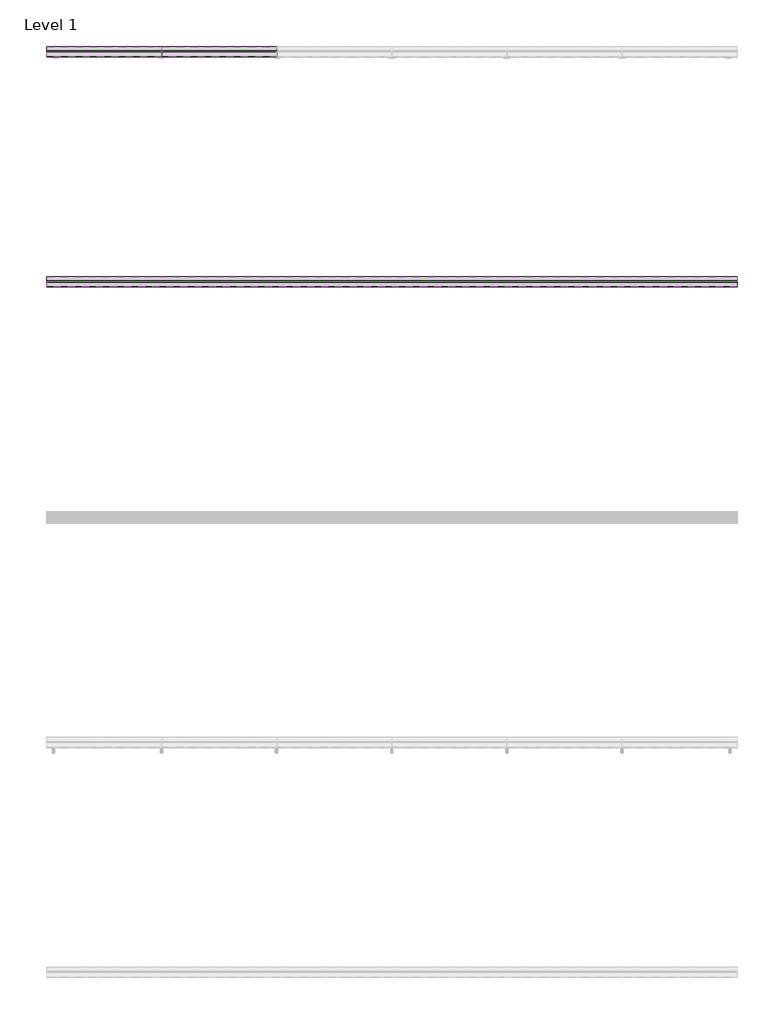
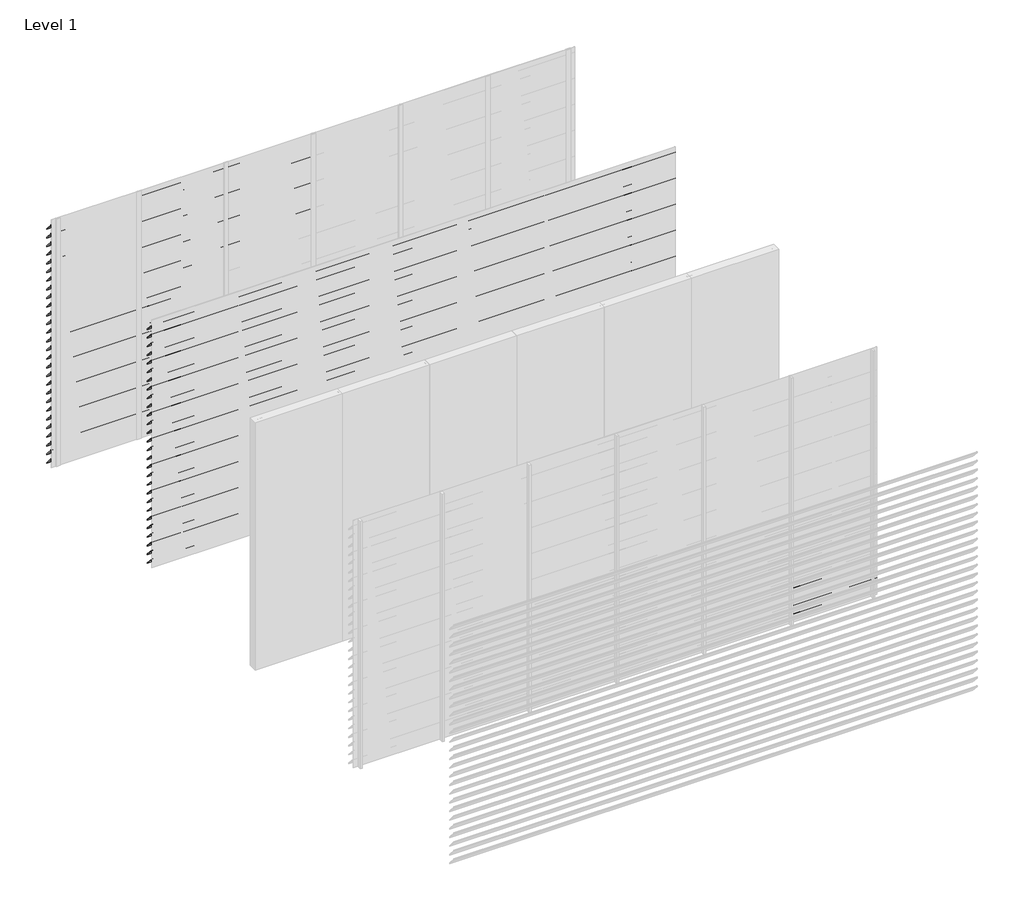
# One storey, part 8 of 9: 99 proxies.
"""IFC4 building model written with IfcOpenShell, lengths in millimetres."""

from ifc_helpers import new_model, si_unit, frame, origin, place, context, project, spatial, polyline, outline, extrude, element, save

model = new_model("IFC4")

# Units and contexts
model_context = context("Model", 3, world=origin())
ifc_project = project(units=[si_unit("LENGTHUNIT", "METRE", prefix="MILLI")], contexts=[model_context])

# Site, building, storey
site = spatial("IfcSite", under=ifc_project)
building = spatial("IfcBuilding", under=site)
storey = spatial("IfcBuildingStorey", under=building, Name="Level 1", Elevation=0.0)

# Proxies
placement = place(None, origin())
element("IfcBuildingElementProxy", 1, Name="Wall Sweeps", at=placement, inside=storey, context=model_context, shape_type="SweptSolid", body=[
    extrude(outline(polyline([(5.0, 2940.0), (5.0, 2935.6232888), (92.0, 2839.0), (92.0, 2829.0), (3.0, 2927.8445138), (3.0, 2940.0), (5.0, 2940.0)])), frame((0.0, 0.0, 0.0), z_axis=(1.0, 0.0, 0.0), x_axis=(0.0, 1.0, 0.0)), (0.0, 0.0, 1.0), 1000.0),
])
element("IfcBuildingElementProxy", 2, Name="Wall Sweeps", at=placement, inside=storey, context=model_context, shape_type="SweptSolid", body=[
    extrude(outline(polyline([(5.0, 2835.0), (5.0, 2830.6232888), (92.0, 2734.0), (92.0, 2724.0), (3.0, 2822.8445138), (3.0, 2835.0), (5.0, 2835.0)])), frame((0.0, 0.0, 0.0), z_axis=(1.0, 0.0, 0.0), x_axis=(0.0, 1.0, 0.0)), (0.0, 0.0, 1.0), 1000.0),
])
element("IfcBuildingElementProxy", 3, Name="Wall Sweeps", at=placement, inside=storey, context=model_context, shape_type="SweptSolid", body=[
    extrude(outline(polyline([(5.0, 2730.0), (5.0, 2725.6232888), (92.0, 2629.0), (92.0, 2619.0), (3.0, 2717.8445138), (3.0, 2730.0), (5.0, 2730.0)])), frame((0.0, 0.0, 0.0), z_axis=(1.0, 0.0, 0.0), x_axis=(0.0, 1.0, 0.0)), (0.0, 0.0, 1.0), 1000.0),
])
element("IfcBuildingElementProxy", 4, Name="Wall Sweeps", at=placement, inside=storey, context=model_context, shape_type="SweptSolid", body=[
    extrude(outline(polyline([(5.0, 2625.0), (5.0, 2620.6232888), (92.0, 2524.0), (92.0, 2514.0), (3.0, 2612.8445138), (3.0, 2625.0), (5.0, 2625.0)])), frame((0.0, 0.0, 0.0), z_axis=(1.0, 0.0, 0.0), x_axis=(0.0, 1.0, 0.0)), (0.0, 0.0, 1.0), 1000.0),
])
element("IfcBuildingElementProxy", 5, Name="Wall Sweeps", at=placement, inside=storey, context=model_context, shape_type="SweptSolid", body=[
    extrude(outline(polyline([(5.0, 2520.0), (5.0, 2515.6232888), (92.0, 2419.0), (92.0, 2409.0), (3.0, 2507.8445138), (3.0, 2520.0), (5.0, 2520.0)])), frame((0.0, 0.0, 0.0), z_axis=(1.0, 0.0, 0.0), x_axis=(0.0, 1.0, 0.0)), (0.0, 0.0, 1.0), 1000.0),
])
element("IfcBuildingElementProxy", 6, Name="Wall Sweeps", at=placement, inside=storey, context=model_context, shape_type="SweptSolid", body=[
    extrude(outline(polyline([(5.0, 2415.0), (5.0, 2410.6232888), (92.0, 2314.0), (92.0, 2304.0), (3.0, 2402.8445138), (3.0, 2415.0), (5.0, 2415.0)])), frame((0.0, 0.0, 0.0), z_axis=(1.0, 0.0, 0.0), x_axis=(0.0, 1.0, 0.0)), (0.0, 0.0, 1.0), 1000.0),
])
element("IfcBuildingElementProxy", 7, Name="Wall Sweeps", at=placement, inside=storey, context=model_context, shape_type="SweptSolid", body=[
    extrude(outline(polyline([(5.0, 2310.0), (5.0, 2305.6232888), (92.0, 2209.0), (92.0, 2199.0), (3.0, 2297.8445138), (3.0, 2310.0), (5.0, 2310.0)])), frame((0.0, 0.0, 0.0), z_axis=(1.0, 0.0, 0.0), x_axis=(0.0, 1.0, 0.0)), (0.0, 0.0, 1.0), 1000.0),
])
element("IfcBuildingElementProxy", 8, Name="Wall Sweeps", at=placement, inside=storey, context=model_context, shape_type="SweptSolid", body=[
    extrude(outline(polyline([(5.0, 2205.0), (5.0, 2200.6232888), (92.0, 2104.0), (92.0, 2094.0), (3.0, 2192.8445138), (3.0, 2205.0), (5.0, 2205.0)])), frame((0.0, 0.0, 0.0), z_axis=(1.0, 0.0, 0.0), x_axis=(0.0, 1.0, 0.0)), (0.0, 0.0, 1.0), 1000.0),
])
element("IfcBuildingElementProxy", 9, Name="Wall Sweeps", at=placement, inside=storey, context=model_context, shape_type="SweptSolid", body=[
    extrude(outline(polyline([(5.0, 2100.0), (5.0, 2095.6232888), (92.0, 1999.0), (92.0, 1989.0), (3.0, 2087.8445138), (3.0, 2100.0), (5.0, 2100.0)])), frame((0.0, 0.0, 0.0), z_axis=(1.0, 0.0, 0.0), x_axis=(0.0, 1.0, 0.0)), (0.0, 0.0, 1.0), 1000.0),
])
element("IfcBuildingElementProxy", 10, Name="Wall Sweeps", at=placement, inside=storey, context=model_context, shape_type="SweptSolid", body=[
    extrude(outline(polyline([(5.0, 1995.0), (5.0, 1990.6232888), (92.0, 1894.0), (92.0, 1884.0), (3.0, 1982.8445138), (3.0, 1995.0), (5.0, 1995.0)])), frame((0.0, 0.0, 0.0), z_axis=(1.0, 0.0, 0.0), x_axis=(0.0, 1.0, 0.0)), (0.0, 0.0, 1.0), 1000.0),
])
element("IfcBuildingElementProxy", 11, Name="Wall Sweeps", at=placement, inside=storey, context=model_context, shape_type="SweptSolid", body=[
    extrude(outline(polyline([(5.0, 1890.0), (5.0, 1885.6232888), (92.0, 1789.0), (92.0, 1779.0), (3.0, 1877.8445138), (3.0, 1890.0), (5.0, 1890.0)])), frame((0.0, 0.0, 0.0), z_axis=(1.0, 0.0, 0.0), x_axis=(0.0, 1.0, 0.0)), (0.0, 0.0, 1.0), 1000.0),
])
element("IfcBuildingElementProxy", 12, Name="Wall Sweeps", at=placement, inside=storey, context=model_context, shape_type="SweptSolid", body=[
    extrude(outline(polyline([(5.0, 1785.0), (5.0, 1780.6232888), (92.0, 1684.0), (92.0, 1674.0), (3.0, 1772.8445138), (3.0, 1785.0), (5.0, 1785.0)])), frame((0.0, 0.0, 0.0), z_axis=(1.0, 0.0, 0.0), x_axis=(0.0, 1.0, 0.0)), (0.0, 0.0, 1.0), 1000.0),
])
element("IfcBuildingElementProxy", 13, Name="Wall Sweeps", at=placement, inside=storey, context=model_context, shape_type="SweptSolid", body=[
    extrude(outline(polyline([(5.0, 1680.0), (5.0, 1675.6232888), (92.0, 1579.0), (92.0, 1569.0), (3.0, 1667.8445138), (3.0, 1680.0), (5.0, 1680.0)])), frame((0.0, 0.0, 0.0), z_axis=(1.0, 0.0, 0.0), x_axis=(0.0, 1.0, 0.0)), (0.0, 0.0, 1.0), 1000.0),
])
element("IfcBuildingElementProxy", 14, Name="Wall Sweeps", at=placement, inside=storey, context=model_context, shape_type="SweptSolid", body=[
    extrude(outline(polyline([(5.0, 1575.0), (5.0, 1570.6232888), (92.0, 1474.0), (92.0, 1464.0), (3.0, 1562.8445138), (3.0, 1575.0), (5.0, 1575.0)])), frame((0.0, 0.0, 0.0), z_axis=(1.0, 0.0, 0.0), x_axis=(0.0, 1.0, 0.0)), (0.0, 0.0, 1.0), 1000.0),
])
element("IfcBuildingElementProxy", 15, Name="Wall Sweeps", at=placement, inside=storey, context=model_context, shape_type="SweptSolid", body=[
    extrude(outline(polyline([(5.0, 1470.0), (5.0, 1465.6232888), (92.0, 1369.0), (92.0, 1359.0), (3.0, 1457.8445138), (3.0, 1470.0), (5.0, 1470.0)])), frame((0.0, 0.0, 0.0), z_axis=(1.0, 0.0, 0.0), x_axis=(0.0, 1.0, 0.0)), (0.0, 0.0, 1.0), 1000.0),
])
element("IfcBuildingElementProxy", 16, Name="Wall Sweeps", at=placement, inside=storey, context=model_context, shape_type="SweptSolid", body=[
    extrude(outline(polyline([(5.0, 1365.0), (5.0, 1360.6232888), (92.0, 1264.0), (92.0, 1254.0), (3.0, 1352.8445138), (3.0, 1365.0), (5.0, 1365.0)])), frame((0.0, 0.0, 0.0), z_axis=(1.0, 0.0, 0.0), x_axis=(0.0, 1.0, 0.0)), (0.0, 0.0, 1.0), 1000.0),
])
element("IfcBuildingElementProxy", 17, Name="Wall Sweeps", at=placement, inside=storey, context=model_context, shape_type="SweptSolid", body=[
    extrude(outline(polyline([(5.0, 1260.0), (5.0, 1255.6232888), (92.0, 1159.0), (92.0, 1149.0), (3.0, 1247.8445138), (3.0, 1260.0), (5.0, 1260.0)])), frame((0.0, 0.0, 0.0), z_axis=(1.0, 0.0, 0.0), x_axis=(0.0, 1.0, 0.0)), (0.0, 0.0, 1.0), 1000.0),
])
element("IfcBuildingElementProxy", 18, Name="Wall Sweeps", at=placement, inside=storey, context=model_context, shape_type="SweptSolid", body=[
    extrude(outline(polyline([(5.0, 1155.0), (5.0, 1150.6232888), (92.0, 1054.0), (92.0, 1044.0), (3.0, 1142.8445138), (3.0, 1155.0), (5.0, 1155.0)])), frame((0.0, 0.0, 0.0), z_axis=(1.0, 0.0, 0.0), x_axis=(0.0, 1.0, 0.0)), (0.0, 0.0, 1.0), 1000.0),
])
element("IfcBuildingElementProxy", 19, Name="Wall Sweeps", at=placement, inside=storey, context=model_context, shape_type="SweptSolid", body=[
    extrude(outline(polyline([(5.0, 1050.0), (5.0, 1045.6232888), (92.0, 949.0), (92.0, 939.0), (3.0, 1037.8445138), (3.0, 1050.0), (5.0, 1050.0)])), frame((0.0, 0.0, 0.0), z_axis=(1.0, 0.0, 0.0), x_axis=(0.0, 1.0, 0.0)), (0.0, 0.0, 1.0), 1000.0),
])
element("IfcBuildingElementProxy", 20, Name="Wall Sweeps", at=placement, inside=storey, context=model_context, shape_type="SweptSolid", body=[
    extrude(outline(polyline([(5.0, 945.0), (5.0, 940.6232888), (92.0, 844.0), (92.0, 834.0), (3.0, 932.8445138), (3.0, 945.0), (5.0, 945.0)])), frame((0.0, 0.0, 0.0), z_axis=(1.0, 0.0, 0.0), x_axis=(0.0, 1.0, 0.0)), (0.0, 0.0, 1.0), 1000.0),
])
element("IfcBuildingElementProxy", 21, Name="Wall Sweeps", at=placement, inside=storey, context=model_context, shape_type="SweptSolid", body=[
    extrude(outline(polyline([(5.0, 840.0), (5.0, 835.6232888), (92.0, 739.0), (92.0, 729.0), (3.0, 827.8445138), (3.0, 840.0), (5.0, 840.0)])), frame((0.0, 0.0, 0.0), z_axis=(1.0, 0.0, 0.0), x_axis=(0.0, 1.0, 0.0)), (0.0, 0.0, 1.0), 1000.0),
])
element("IfcBuildingElementProxy", 22, Name="Wall Sweeps", at=placement, inside=storey, context=model_context, shape_type="SweptSolid", body=[
    extrude(outline(polyline([(5.0, 735.0), (5.0, 730.6232888), (92.0, 634.0), (92.0, 624.0), (3.0, 722.8445138), (3.0, 735.0), (5.0, 735.0)])), frame((0.0, 0.0, 0.0), z_axis=(1.0, 0.0, 0.0), x_axis=(0.0, 1.0, 0.0)), (0.0, 0.0, 1.0), 1000.0),
])
element("IfcBuildingElementProxy", 23, Name="Wall Sweeps", at=placement, inside=storey, context=model_context, shape_type="SweptSolid", body=[
    extrude(outline(polyline([(5.0, 630.0), (5.0, 625.6232888), (92.0, 529.0), (92.0, 519.0), (3.0, 617.8445138), (3.0, 630.0), (5.0, 630.0)])), frame((0.0, 0.0, 0.0), z_axis=(1.0, 0.0, 0.0), x_axis=(0.0, 1.0, 0.0)), (0.0, 0.0, 1.0), 1000.0),
])
element("IfcBuildingElementProxy", 24, Name="Wall Sweeps", at=placement, inside=storey, context=model_context, shape_type="SweptSolid", body=[
    extrude(outline(polyline([(5.0, 525.0), (5.0, 520.6232888), (92.0, 424.0), (92.0, 414.0), (3.0, 512.8445138), (3.0, 525.0), (5.0, 525.0)])), frame((0.0, 0.0, 0.0), z_axis=(1.0, 0.0, 0.0), x_axis=(0.0, 1.0, 0.0)), (0.0, 0.0, 1.0), 1000.0),
])
element("IfcBuildingElementProxy", 25, Name="Wall Sweeps", at=placement, inside=storey, context=model_context, shape_type="SweptSolid", body=[
    extrude(outline(polyline([(5.0, 420.0), (5.0, 415.6232888), (92.0, 319.0), (92.0, 309.0), (3.0, 407.8445138), (3.0, 420.0), (5.0, 420.0)])), frame((0.0, 0.0, 0.0), z_axis=(1.0, 0.0, 0.0), x_axis=(0.0, 1.0, 0.0)), (0.0, 0.0, 1.0), 1000.0),
])
element("IfcBuildingElementProxy", 26, Name="Wall Sweeps", at=placement, inside=storey, context=model_context, shape_type="SweptSolid", body=[
    extrude(outline(polyline([(5.0, 315.0), (5.0, 310.6232888), (92.0, 214.0), (92.0, 204.0), (3.0, 302.8445138), (3.0, 315.0), (5.0, 315.0)])), frame((0.0, 0.0, 0.0), z_axis=(1.0, 0.0, 0.0), x_axis=(0.0, 1.0, 0.0)), (0.0, 0.0, 1.0), 1000.0),
])
element("IfcBuildingElementProxy", 27, Name="Wall Sweeps", at=placement, inside=storey, context=model_context, shape_type="SweptSolid", body=[
    extrude(outline(polyline([(5.0, 210.0), (5.0, 205.6232888), (92.0, 109.0), (92.0, 99.0), (3.0, 197.8445138), (3.0, 210.0), (5.0, 210.0)])), frame((0.0, 0.0, 0.0), z_axis=(1.0, 0.0, 0.0), x_axis=(0.0, 1.0, 0.0)), (0.0, 0.0, 1.0), 1000.0),
])
element("IfcBuildingElementProxy", 28, Name="Wall Sweeps", at=placement, inside=storey, context=model_context, shape_type="SweptSolid", body=[
    extrude(outline(polyline([(5.0, 105.0), (5.0, 100.6232888), (92.0, 4.0), (92.0, -6.0), (3.0, 92.8445138), (3.0, 105.0), (5.0, 105.0)])), frame((0.0, 0.0, 0.0), z_axis=(1.0, 0.0, 0.0), x_axis=(0.0, 1.0, 0.0)), (0.0, 0.0, 1.0), 1000.0),
])
element("IfcBuildingElementProxy", 29, Name="Wall Sweeps", at=placement, inside=storey, context=model_context, shape_type="SweptSolid", body=[
    extrude(outline(polyline([(5.0, 2940.0), (5.0, 2935.6232888), (92.0, 2839.0), (92.0, 2829.0), (3.0, 2927.8445138), (3.0, 2940.0), (5.0, 2940.0)])), frame((1000.0, 0.0, 0.0), z_axis=(1.0, 0.0, 0.0), x_axis=(0.0, 1.0, 0.0)), (0.0, 0.0, 1.0), 1000.0),
])
element("IfcBuildingElementProxy", 30, Name="Wall Sweeps", at=placement, inside=storey, context=model_context, shape_type="SweptSolid", body=[
    extrude(outline(polyline([(5.0, 2835.0), (5.0, 2830.6232888), (92.0, 2734.0), (92.0, 2724.0), (3.0, 2822.8445138), (3.0, 2835.0), (5.0, 2835.0)])), frame((1000.0, 0.0, 0.0), z_axis=(1.0, 0.0, 0.0), x_axis=(0.0, 1.0, 0.0)), (0.0, 0.0, 1.0), 1000.0),
])
element("IfcBuildingElementProxy", 31, Name="Wall Sweeps", at=placement, inside=storey, context=model_context, shape_type="SweptSolid", body=[
    extrude(outline(polyline([(5.0, 2730.0), (5.0, 2725.6232888), (92.0, 2629.0), (92.0, 2619.0), (3.0, 2717.8445138), (3.0, 2730.0), (5.0, 2730.0)])), frame((1000.0, 0.0, 0.0), z_axis=(1.0, 0.0, 0.0), x_axis=(0.0, 1.0, 0.0)), (0.0, 0.0, 1.0), 1000.0),
])
element("IfcBuildingElementProxy", 32, Name="Wall Sweeps", at=placement, inside=storey, context=model_context, shape_type="SweptSolid", body=[
    extrude(outline(polyline([(5.0, 2625.0), (5.0, 2620.6232888), (92.0, 2524.0), (92.0, 2514.0), (3.0, 2612.8445138), (3.0, 2625.0), (5.0, 2625.0)])), frame((1000.0, 0.0, 0.0), z_axis=(1.0, 0.0, 0.0), x_axis=(0.0, 1.0, 0.0)), (0.0, 0.0, 1.0), 1000.0),
])
element("IfcBuildingElementProxy", 33, Name="Wall Sweeps", at=placement, inside=storey, context=model_context, shape_type="SweptSolid", body=[
    extrude(outline(polyline([(5.0, 2520.0), (5.0, 2515.6232888), (92.0, 2419.0), (92.0, 2409.0), (3.0, 2507.8445138), (3.0, 2520.0), (5.0, 2520.0)])), frame((1000.0, 0.0, 0.0), z_axis=(1.0, 0.0, 0.0), x_axis=(0.0, 1.0, 0.0)), (0.0, 0.0, 1.0), 1000.0),
])
element("IfcBuildingElementProxy", 34, Name="Wall Sweeps", at=placement, inside=storey, context=model_context, shape_type="SweptSolid", body=[
    extrude(outline(polyline([(5.0, 2415.0), (5.0, 2410.6232888), (92.0, 2314.0), (92.0, 2304.0), (3.0, 2402.8445138), (3.0, 2415.0), (5.0, 2415.0)])), frame((1000.0, 0.0, 0.0), z_axis=(1.0, 0.0, 0.0), x_axis=(0.0, 1.0, 0.0)), (0.0, 0.0, 1.0), 1000.0),
])
element("IfcBuildingElementProxy", 35, Name="Wall Sweeps", at=placement, inside=storey, context=model_context, shape_type="SweptSolid", body=[
    extrude(outline(polyline([(5.0, 2310.0), (5.0, 2305.6232888), (92.0, 2209.0), (92.0, 2199.0), (3.0, 2297.8445138), (3.0, 2310.0), (5.0, 2310.0)])), frame((1000.0, 0.0, 0.0), z_axis=(1.0, 0.0, 0.0), x_axis=(0.0, 1.0, 0.0)), (0.0, 0.0, 1.0), 1000.0),
])
element("IfcBuildingElementProxy", 36, Name="Wall Sweeps", at=placement, inside=storey, context=model_context, shape_type="SweptSolid", body=[
    extrude(outline(polyline([(5.0, 2205.0), (5.0, 2200.6232888), (92.0, 2104.0), (92.0, 2094.0), (3.0, 2192.8445138), (3.0, 2205.0), (5.0, 2205.0)])), frame((1000.0, 0.0, 0.0), z_axis=(1.0, 0.0, 0.0), x_axis=(0.0, 1.0, 0.0)), (0.0, 0.0, 1.0), 1000.0),
])
element("IfcBuildingElementProxy", 37, Name="Wall Sweeps", at=placement, inside=storey, context=model_context, shape_type="SweptSolid", body=[
    extrude(outline(polyline([(5.0, 2100.0), (5.0, 2095.6232888), (92.0, 1999.0), (92.0, 1989.0), (3.0, 2087.8445138), (3.0, 2100.0), (5.0, 2100.0)])), frame((1000.0, 0.0, 0.0), z_axis=(1.0, 0.0, 0.0), x_axis=(0.0, 1.0, 0.0)), (0.0, 0.0, 1.0), 1000.0),
])
element("IfcBuildingElementProxy", 38, Name="Wall Sweeps", at=placement, inside=storey, context=model_context, shape_type="SweptSolid", body=[
    extrude(outline(polyline([(5.0, 1995.0), (5.0, 1990.6232888), (92.0, 1894.0), (92.0, 1884.0), (3.0, 1982.8445138), (3.0, 1995.0), (5.0, 1995.0)])), frame((1000.0, 0.0, 0.0), z_axis=(1.0, 0.0, 0.0), x_axis=(0.0, 1.0, 0.0)), (0.0, 0.0, 1.0), 1000.0),
])
element("IfcBuildingElementProxy", 39, Name="Wall Sweeps", at=placement, inside=storey, context=model_context, shape_type="SweptSolid", body=[
    extrude(outline(polyline([(5.0, 1890.0), (5.0, 1885.6232888), (92.0, 1789.0), (92.0, 1779.0), (3.0, 1877.8445138), (3.0, 1890.0), (5.0, 1890.0)])), frame((1000.0, 0.0, 0.0), z_axis=(1.0, 0.0, 0.0), x_axis=(0.0, 1.0, 0.0)), (0.0, 0.0, 1.0), 1000.0),
])
element("IfcBuildingElementProxy", 40, Name="Wall Sweeps", at=placement, inside=storey, context=model_context, shape_type="SweptSolid", body=[
    extrude(outline(polyline([(5.0, 1785.0), (5.0, 1780.6232888), (92.0, 1684.0), (92.0, 1674.0), (3.0, 1772.8445138), (3.0, 1785.0), (5.0, 1785.0)])), frame((1000.0, 0.0, 0.0), z_axis=(1.0, 0.0, 0.0), x_axis=(0.0, 1.0, 0.0)), (0.0, 0.0, 1.0), 1000.0),
])
element("IfcBuildingElementProxy", 41, Name="Wall Sweeps", at=placement, inside=storey, context=model_context, shape_type="SweptSolid", body=[
    extrude(outline(polyline([(5.0, 1680.0), (5.0, 1675.6232888), (92.0, 1579.0), (92.0, 1569.0), (3.0, 1667.8445138), (3.0, 1680.0), (5.0, 1680.0)])), frame((1000.0, 0.0, 0.0), z_axis=(1.0, 0.0, 0.0), x_axis=(0.0, 1.0, 0.0)), (0.0, 0.0, 1.0), 1000.0),
])
element("IfcBuildingElementProxy", 42, Name="Wall Sweeps", at=placement, inside=storey, context=model_context, shape_type="SweptSolid", body=[
    extrude(outline(polyline([(5.0, 1575.0), (5.0, 1570.6232888), (92.0, 1474.0), (92.0, 1464.0), (3.0, 1562.8445138), (3.0, 1575.0), (5.0, 1575.0)])), frame((1000.0, 0.0, 0.0), z_axis=(1.0, 0.0, 0.0), x_axis=(0.0, 1.0, 0.0)), (0.0, 0.0, 1.0), 1000.0),
])
element("IfcBuildingElementProxy", 43, Name="Wall Sweeps", at=placement, inside=storey, context=model_context, shape_type="SweptSolid", body=[
    extrude(outline(polyline([(5.0, 1470.0), (5.0, 1465.6232888), (92.0, 1369.0), (92.0, 1359.0), (3.0, 1457.8445138), (3.0, 1470.0), (5.0, 1470.0)])), frame((1000.0, 0.0, 0.0), z_axis=(1.0, 0.0, 0.0), x_axis=(0.0, 1.0, 0.0)), (0.0, 0.0, 1.0), 1000.0),
])
element("IfcBuildingElementProxy", 44, Name="Wall Sweeps", at=placement, inside=storey, context=model_context, shape_type="SweptSolid", body=[
    extrude(outline(polyline([(5.0, 1365.0), (5.0, 1360.6232888), (92.0, 1264.0), (92.0, 1254.0), (3.0, 1352.8445138), (3.0, 1365.0), (5.0, 1365.0)])), frame((1000.0, 0.0, 0.0), z_axis=(1.0, 0.0, 0.0), x_axis=(0.0, 1.0, 0.0)), (0.0, 0.0, 1.0), 1000.0),
])
element("IfcBuildingElementProxy", 45, Name="Wall Sweeps", at=placement, inside=storey, context=model_context, shape_type="SweptSolid", body=[
    extrude(outline(polyline([(5.0, 1260.0), (5.0, 1255.6232888), (92.0, 1159.0), (92.0, 1149.0), (3.0, 1247.8445138), (3.0, 1260.0), (5.0, 1260.0)])), frame((1000.0, 0.0, 0.0), z_axis=(1.0, 0.0, 0.0), x_axis=(0.0, 1.0, 0.0)), (0.0, 0.0, 1.0), 1000.0),
])
element("IfcBuildingElementProxy", 46, Name="Wall Sweeps", at=placement, inside=storey, context=model_context, shape_type="SweptSolid", body=[
    extrude(outline(polyline([(5.0, 1155.0), (5.0, 1150.6232888), (92.0, 1054.0), (92.0, 1044.0), (3.0, 1142.8445138), (3.0, 1155.0), (5.0, 1155.0)])), frame((1000.0, 0.0, 0.0), z_axis=(1.0, 0.0, 0.0), x_axis=(0.0, 1.0, 0.0)), (0.0, 0.0, 1.0), 1000.0),
])
element("IfcBuildingElementProxy", 47, Name="Wall Sweeps", at=placement, inside=storey, context=model_context, shape_type="SweptSolid", body=[
    extrude(outline(polyline([(5.0, 1050.0), (5.0, 1045.6232888), (92.0, 949.0), (92.0, 939.0), (3.0, 1037.8445138), (3.0, 1050.0), (5.0, 1050.0)])), frame((1000.0, 0.0, 0.0), z_axis=(1.0, 0.0, 0.0), x_axis=(0.0, 1.0, 0.0)), (0.0, 0.0, 1.0), 1000.0),
])
element("IfcBuildingElementProxy", 48, Name="Wall Sweeps", at=placement, inside=storey, context=model_context, shape_type="SweptSolid", body=[
    extrude(outline(polyline([(5.0, 945.0), (5.0, 940.6232888), (92.0, 844.0), (92.0, 834.0), (3.0, 932.8445138), (3.0, 945.0), (5.0, 945.0)])), frame((1000.0, 0.0, 0.0), z_axis=(1.0, 0.0, 0.0), x_axis=(0.0, 1.0, 0.0)), (0.0, 0.0, 1.0), 1000.0),
])
element("IfcBuildingElementProxy", 49, Name="Wall Sweeps", at=placement, inside=storey, context=model_context, shape_type="SweptSolid", body=[
    extrude(outline(polyline([(5.0, 840.0), (5.0, 835.6232888), (92.0, 739.0), (92.0, 729.0), (3.0, 827.8445138), (3.0, 840.0), (5.0, 840.0)])), frame((1000.0, 0.0, 0.0), z_axis=(1.0, 0.0, 0.0), x_axis=(0.0, 1.0, 0.0)), (0.0, 0.0, 1.0), 1000.0),
])
element("IfcBuildingElementProxy", 50, Name="Wall Sweeps", at=placement, inside=storey, context=model_context, shape_type="SweptSolid", body=[
    extrude(outline(polyline([(5.0, 735.0), (5.0, 730.6232888), (92.0, 634.0), (92.0, 624.0), (3.0, 722.8445138), (3.0, 735.0), (5.0, 735.0)])), frame((1000.0, 0.0, 0.0), z_axis=(1.0, 0.0, 0.0), x_axis=(0.0, 1.0, 0.0)), (0.0, 0.0, 1.0), 1000.0),
])
element("IfcBuildingElementProxy", 51, Name="Wall Sweeps", at=placement, inside=storey, context=model_context, shape_type="SweptSolid", body=[
    extrude(outline(polyline([(5.0, 630.0), (5.0, 625.6232888), (92.0, 529.0), (92.0, 519.0), (3.0, 617.8445138), (3.0, 630.0), (5.0, 630.0)])), frame((1000.0, 0.0, 0.0), z_axis=(1.0, 0.0, 0.0), x_axis=(0.0, 1.0, 0.0)), (0.0, 0.0, 1.0), 1000.0),
])
element("IfcBuildingElementProxy", 52, Name="Wall Sweeps", at=placement, inside=storey, context=model_context, shape_type="SweptSolid", body=[
    extrude(outline(polyline([(5.0, 525.0), (5.0, 520.6232888), (92.0, 424.0), (92.0, 414.0), (3.0, 512.8445138), (3.0, 525.0), (5.0, 525.0)])), frame((1000.0, 0.0, 0.0), z_axis=(1.0, 0.0, 0.0), x_axis=(0.0, 1.0, 0.0)), (0.0, 0.0, 1.0), 1000.0),
])
element("IfcBuildingElementProxy", 53, Name="Wall Sweeps", at=placement, inside=storey, context=model_context, shape_type="SweptSolid", body=[
    extrude(outline(polyline([(5.0, 420.0), (5.0, 415.6232888), (92.0, 319.0), (92.0, 309.0), (3.0, 407.8445138), (3.0, 420.0), (5.0, 420.0)])), frame((1000.0, 0.0, 0.0), z_axis=(1.0, 0.0, 0.0), x_axis=(0.0, 1.0, 0.0)), (0.0, 0.0, 1.0), 1000.0),
])
element("IfcBuildingElementProxy", 54, Name="Wall Sweeps", at=placement, inside=storey, context=model_context, shape_type="SweptSolid", body=[
    extrude(outline(polyline([(5.0, 315.0), (5.0, 310.6232888), (92.0, 214.0), (92.0, 204.0), (3.0, 302.8445138), (3.0, 315.0), (5.0, 315.0)])), frame((1000.0, 0.0, 0.0), z_axis=(1.0, 0.0, 0.0), x_axis=(0.0, 1.0, 0.0)), (0.0, 0.0, 1.0), 1000.0),
])
element("IfcBuildingElementProxy", 55, Name="Wall Sweeps", at=placement, inside=storey, context=model_context, shape_type="SweptSolid", body=[
    extrude(outline(polyline([(5.0, 210.0), (5.0, 205.6232888), (92.0, 109.0), (92.0, 99.0), (3.0, 197.8445138), (3.0, 210.0), (5.0, 210.0)])), frame((1000.0, 0.0, 0.0), z_axis=(1.0, 0.0, 0.0), x_axis=(0.0, 1.0, 0.0)), (0.0, 0.0, 1.0), 1000.0),
])
element("IfcBuildingElementProxy", 56, Name="Wall Sweeps", at=placement, inside=storey, context=model_context, shape_type="SweptSolid", body=[
    extrude(outline(polyline([(5.0, 105.0), (5.0, 100.6232888), (92.0, 4.0), (92.0, -6.0), (3.0, 92.8445138), (3.0, 105.0), (5.0, 105.0)])), frame((1000.0, 0.0, 0.0), z_axis=(1.0, 0.0, 0.0), x_axis=(0.0, 1.0, 0.0)), (0.0, 0.0, 1.0), 1000.0),
])
element("IfcBuildingElementProxy", 57, Name="Wall Sweeps", at=placement, inside=storey, context=model_context, shape_type="SweptSolid", body=[
    extrude(outline(polyline([(5.0, 2940.0), (5.0, 2935.6232888), (92.0, 2839.0), (92.0, 2829.0), (3.0, 2927.8445138), (3.0, 2940.0), (5.0, 2940.0)])), frame((2000.0, 0.0, 0.0), z_axis=(1.0, 0.0, 0.0), x_axis=(0.0, 1.0, 0.0)), (0.0, 0.0, 1.0), 1000.0),
])
element("IfcBuildingElementProxy", 58, Name="Wall Sweeps", at=placement, inside=storey, context=model_context, shape_type="SweptSolid", body=[
    extrude(outline(polyline([(5.0, 2835.0), (5.0, 2830.6232888), (92.0, 2734.0), (92.0, 2724.0), (3.0, 2822.8445138), (3.0, 2835.0), (5.0, 2835.0)])), frame((2000.0, 0.0, 0.0), z_axis=(1.0, 0.0, 0.0), x_axis=(0.0, 1.0, 0.0)), (0.0, 0.0, 1.0), 1000.0),
])
element("IfcBuildingElementProxy", 59, Name="Wall Sweeps", at=placement, inside=storey, context=model_context, shape_type="SweptSolid", body=[
    extrude(outline(polyline([(5.0, 2730.0), (5.0, 2725.6232888), (92.0, 2629.0), (92.0, 2619.0), (3.0, 2717.8445138), (3.0, 2730.0), (5.0, 2730.0)])), frame((2000.0, 0.0, 0.0), z_axis=(1.0, 0.0, 0.0), x_axis=(0.0, 1.0, 0.0)), (0.0, 0.0, 1.0), 1000.0),
])
element("IfcBuildingElementProxy", 60, Name="Wall Sweeps", at=placement, inside=storey, context=model_context, shape_type="SweptSolid", body=[
    extrude(outline(polyline([(5.0, 2625.0), (5.0, 2620.6232888), (92.0, 2524.0), (92.0, 2514.0), (3.0, 2612.8445138), (3.0, 2625.0), (5.0, 2625.0)])), frame((2000.0, 0.0, 0.0), z_axis=(1.0, 0.0, 0.0), x_axis=(0.0, 1.0, 0.0)), (0.0, 0.0, 1.0), 1000.0),
])
element("IfcBuildingElementProxy", 61, Name="Wall Sweeps", at=placement, inside=storey, context=model_context, shape_type="SweptSolid", body=[
    extrude(outline(polyline([(5.0, 2520.0), (5.0, 2515.6232888), (92.0, 2419.0), (92.0, 2409.0), (3.0, 2507.8445138), (3.0, 2520.0), (5.0, 2520.0)])), frame((2000.0, 0.0, 0.0), z_axis=(1.0, 0.0, 0.0), x_axis=(0.0, 1.0, 0.0)), (0.0, 0.0, 1.0), 1000.0),
])
element("IfcBuildingElementProxy", 62, Name="Wall Sweeps", at=placement, inside=storey, context=model_context, shape_type="SweptSolid", body=[
    extrude(outline(polyline([(5.0, 2415.0), (5.0, 2410.6232888), (92.0, 2314.0), (92.0, 2304.0), (3.0, 2402.8445138), (3.0, 2415.0), (5.0, 2415.0)])), frame((2000.0, 0.0, 0.0), z_axis=(1.0, 0.0, 0.0), x_axis=(0.0, 1.0, 0.0)), (0.0, 0.0, 1.0), 1000.0),
])
element("IfcBuildingElementProxy", 63, Name="Wall Sweeps", at=placement, inside=storey, context=model_context, shape_type="SweptSolid", body=[
    extrude(outline(polyline([(5.0, 2310.0), (5.0, 2305.6232888), (92.0, 2209.0), (92.0, 2199.0), (3.0, 2297.8445138), (3.0, 2310.0), (5.0, 2310.0)])), frame((2000.0, 0.0, 0.0), z_axis=(1.0, 0.0, 0.0), x_axis=(0.0, 1.0, 0.0)), (0.0, 0.0, 1.0), 1000.0),
])
element("IfcBuildingElementProxy", 64, Name="Wall Sweeps", at=placement, inside=storey, context=model_context, shape_type="SweptSolid", body=[
    extrude(outline(polyline([(5.0, 2205.0), (5.0, 2200.6232888), (92.0, 2104.0), (92.0, 2094.0), (3.0, 2192.8445138), (3.0, 2205.0), (5.0, 2205.0)])), frame((2000.0, 0.0, 0.0), z_axis=(1.0, 0.0, 0.0), x_axis=(0.0, 1.0, 0.0)), (0.0, 0.0, 1.0), 1000.0),
])
element("IfcBuildingElementProxy", 65, Name="Wall Sweeps", at=placement, inside=storey, context=model_context, shape_type="SweptSolid", body=[
    extrude(outline(polyline([(5.0, 2100.0), (5.0, 2095.6232888), (92.0, 1999.0), (92.0, 1989.0), (3.0, 2087.8445138), (3.0, 2100.0), (5.0, 2100.0)])), frame((2000.0, 0.0, 0.0), z_axis=(1.0, 0.0, 0.0), x_axis=(0.0, 1.0, 0.0)), (0.0, 0.0, 1.0), 1000.0),
])
element("IfcBuildingElementProxy", 66, Name="Wall Sweeps", at=placement, inside=storey, context=model_context, shape_type="SweptSolid", body=[
    extrude(outline(polyline([(5.0, 1995.0), (5.0, 1990.6232888), (92.0, 1894.0), (92.0, 1884.0), (3.0, 1982.8445138), (3.0, 1995.0), (5.0, 1995.0)])), frame((2000.0, 0.0, 0.0), z_axis=(1.0, 0.0, 0.0), x_axis=(0.0, 1.0, 0.0)), (0.0, 0.0, 1.0), 1000.0),
])
element("IfcBuildingElementProxy", 67, Name="Wall Sweeps", at=placement, inside=storey, context=model_context, shape_type="SweptSolid", body=[
    extrude(outline(polyline([(5.0, 1890.0), (5.0, 1885.6232888), (92.0, 1789.0), (92.0, 1779.0), (3.0, 1877.8445138), (3.0, 1890.0), (5.0, 1890.0)])), frame((2000.0, 0.0, 0.0), z_axis=(1.0, 0.0, 0.0), x_axis=(0.0, 1.0, 0.0)), (0.0, 0.0, 1.0), 1000.0),
])
element("IfcBuildingElementProxy", 68, Name="Wall Sweeps", at=placement, inside=storey, context=model_context, shape_type="SweptSolid", body=[
    extrude(outline(polyline([(-1995.0, 2940.0), (-1995.0, 2935.6232888), (-1908.0, 2839.0), (-1908.0, 2829.0), (-1997.0, 2927.8445138), (-1997.0, 2940.0), (-1995.0, 2940.0)])), frame((0.0, 0.0, 0.0), z_axis=(1.0, 0.0, 0.0), x_axis=(0.0, 1.0, 0.0)), (0.0, 0.0, 1.0), 6000.0),
])
element("IfcBuildingElementProxy", 69, Name="Wall Sweeps", at=placement, inside=storey, context=model_context, shape_type="SweptSolid", body=[
    extrude(outline(polyline([(-1995.0, 2835.0), (-1995.0, 2830.6232888), (-1908.0, 2734.0), (-1908.0, 2724.0), (-1997.0, 2822.8445138), (-1997.0, 2835.0), (-1995.0, 2835.0)])), frame((0.0, 0.0, 0.0), z_axis=(1.0, 0.0, 0.0), x_axis=(0.0, 1.0, 0.0)), (0.0, 0.0, 1.0), 6000.0),
])
element("IfcBuildingElementProxy", 70, Name="Wall Sweeps", at=placement, inside=storey, context=model_context, shape_type="SweptSolid", body=[
    extrude(outline(polyline([(-1995.0, 2730.0), (-1995.0, 2725.6232888), (-1908.0, 2629.0), (-1908.0, 2619.0), (-1997.0, 2717.8445138), (-1997.0, 2730.0), (-1995.0, 2730.0)])), frame((0.0, 0.0, 0.0), z_axis=(1.0, 0.0, 0.0), x_axis=(0.0, 1.0, 0.0)), (0.0, 0.0, 1.0), 6000.0),
])
element("IfcBuildingElementProxy", 71, Name="Wall Sweeps", at=placement, inside=storey, context=model_context, shape_type="SweptSolid", body=[
    extrude(outline(polyline([(-1995.0, 2625.0), (-1995.0, 2620.6232888), (-1908.0, 2524.0), (-1908.0, 2514.0), (-1997.0, 2612.8445138), (-1997.0, 2625.0), (-1995.0, 2625.0)])), frame((0.0, 0.0, 0.0), z_axis=(1.0, 0.0, 0.0), x_axis=(0.0, 1.0, 0.0)), (0.0, 0.0, 1.0), 6000.0),
])
element("IfcBuildingElementProxy", 72, Name="Wall Sweeps", at=placement, inside=storey, context=model_context, shape_type="SweptSolid", body=[
    extrude(outline(polyline([(-1995.0, 2520.0), (-1995.0, 2515.6232888), (-1908.0, 2419.0), (-1908.0, 2409.0), (-1997.0, 2507.8445138), (-1997.0, 2520.0), (-1995.0, 2520.0)])), frame((0.0, 0.0, 0.0), z_axis=(1.0, 0.0, 0.0), x_axis=(0.0, 1.0, 0.0)), (0.0, 0.0, 1.0), 6000.0),
])
element("IfcBuildingElementProxy", 73, Name="Wall Sweeps", at=placement, inside=storey, context=model_context, shape_type="SweptSolid", body=[
    extrude(outline(polyline([(-1995.0, 2415.0), (-1995.0, 2410.6232888), (-1908.0, 2314.0), (-1908.0, 2304.0), (-1997.0, 2402.8445138), (-1997.0, 2415.0), (-1995.0, 2415.0)])), frame((0.0, 0.0, 0.0), z_axis=(1.0, 0.0, 0.0), x_axis=(0.0, 1.0, 0.0)), (0.0, 0.0, 1.0), 6000.0),
])
element("IfcBuildingElementProxy", 74, Name="Wall Sweeps", at=placement, inside=storey, context=model_context, shape_type="SweptSolid", body=[
    extrude(outline(polyline([(-1995.0, 2310.0), (-1995.0, 2305.6232888), (-1908.0, 2209.0), (-1908.0, 2199.0), (-1997.0, 2297.8445138), (-1997.0, 2310.0), (-1995.0, 2310.0)])), frame((0.0, 0.0, 0.0), z_axis=(1.0, 0.0, 0.0), x_axis=(0.0, 1.0, 0.0)), (0.0, 0.0, 1.0), 6000.0),
])
element("IfcBuildingElementProxy", 75, Name="Wall Sweeps", at=placement, inside=storey, context=model_context, shape_type="SweptSolid", body=[
    extrude(outline(polyline([(-1995.0, 2205.0), (-1995.0, 2200.6232888), (-1908.0, 2104.0), (-1908.0, 2094.0), (-1997.0, 2192.8445138), (-1997.0, 2205.0), (-1995.0, 2205.0)])), frame((0.0, 0.0, 0.0), z_axis=(1.0, 0.0, 0.0), x_axis=(0.0, 1.0, 0.0)), (0.0, 0.0, 1.0), 6000.0),
])
element("IfcBuildingElementProxy", 76, Name="Wall Sweeps", at=placement, inside=storey, context=model_context, shape_type="SweptSolid", body=[
    extrude(outline(polyline([(-1995.0, 2100.0), (-1995.0, 2095.6232888), (-1908.0, 1999.0), (-1908.0, 1989.0), (-1997.0, 2087.8445138), (-1997.0, 2100.0), (-1995.0, 2100.0)])), frame((0.0, 0.0, 0.0), z_axis=(1.0, 0.0, 0.0), x_axis=(0.0, 1.0, 0.0)), (0.0, 0.0, 1.0), 6000.0),
])
element("IfcBuildingElementProxy", 77, Name="Wall Sweeps", at=placement, inside=storey, context=model_context, shape_type="SweptSolid", body=[
    extrude(outline(polyline([(-1995.0, 1995.0), (-1995.0, 1990.6232888), (-1908.0, 1894.0), (-1908.0, 1884.0), (-1997.0, 1982.8445138), (-1997.0, 1995.0), (-1995.0, 1995.0)])), frame((0.0, 0.0, 0.0), z_axis=(1.0, 0.0, 0.0), x_axis=(0.0, 1.0, 0.0)), (0.0, 0.0, 1.0), 6000.0),
])
element("IfcBuildingElementProxy", 78, Name="Wall Sweeps", at=placement, inside=storey, context=model_context, shape_type="SweptSolid", body=[
    extrude(outline(polyline([(-1995.0, 1890.0), (-1995.0, 1885.6232888), (-1908.0, 1789.0), (-1908.0, 1779.0), (-1997.0, 1877.8445138), (-1997.0, 1890.0), (-1995.0, 1890.0)])), frame((0.0, 0.0, 0.0), z_axis=(1.0, 0.0, 0.0), x_axis=(0.0, 1.0, 0.0)), (0.0, 0.0, 1.0), 6000.0),
])
element("IfcBuildingElementProxy", 79, Name="Wall Sweeps", at=placement, inside=storey, context=model_context, shape_type="SweptSolid", body=[
    extrude(outline(polyline([(-1995.0, 1785.0), (-1995.0, 1780.6232888), (-1908.0, 1684.0), (-1908.0, 1674.0), (-1997.0, 1772.8445138), (-1997.0, 1785.0), (-1995.0, 1785.0)])), frame((0.0, 0.0, 0.0), z_axis=(1.0, 0.0, 0.0), x_axis=(0.0, 1.0, 0.0)), (0.0, 0.0, 1.0), 6000.0),
])
element("IfcBuildingElementProxy", 80, Name="Wall Sweeps", at=placement, inside=storey, context=model_context, shape_type="SweptSolid", body=[
    extrude(outline(polyline([(-1995.0, 1680.0), (-1995.0, 1675.6232888), (-1908.0, 1579.0), (-1908.0, 1569.0), (-1997.0, 1667.8445138), (-1997.0, 1680.0), (-1995.0, 1680.0)])), frame((0.0, 0.0, 0.0), z_axis=(1.0, 0.0, 0.0), x_axis=(0.0, 1.0, 0.0)), (0.0, 0.0, 1.0), 6000.0),
])
element("IfcBuildingElementProxy", 81, Name="Wall Sweeps", at=placement, inside=storey, context=model_context, shape_type="SweptSolid", body=[
    extrude(outline(polyline([(-1995.0, 1575.0), (-1995.0, 1570.6232888), (-1908.0, 1474.0), (-1908.0, 1464.0), (-1997.0, 1562.8445138), (-1997.0, 1575.0), (-1995.0, 1575.0)])), frame((0.0, 0.0, 0.0), z_axis=(1.0, 0.0, 0.0), x_axis=(0.0, 1.0, 0.0)), (0.0, 0.0, 1.0), 6000.0),
])
element("IfcBuildingElementProxy", 82, Name="Wall Sweeps", at=placement, inside=storey, context=model_context, shape_type="SweptSolid", body=[
    extrude(outline(polyline([(-1995.0, 1470.0), (-1995.0, 1465.6232888), (-1908.0, 1369.0), (-1908.0, 1359.0), (-1997.0, 1457.8445138), (-1997.0, 1470.0), (-1995.0, 1470.0)])), frame((0.0, 0.0, 0.0), z_axis=(1.0, 0.0, 0.0), x_axis=(0.0, 1.0, 0.0)), (0.0, 0.0, 1.0), 6000.0),
])
element("IfcBuildingElementProxy", 83, Name="Wall Sweeps", at=placement, inside=storey, context=model_context, shape_type="SweptSolid", body=[
    extrude(outline(polyline([(-1995.0, 1365.0), (-1995.0, 1360.6232888), (-1908.0, 1264.0), (-1908.0, 1254.0), (-1997.0, 1352.8445138), (-1997.0, 1365.0), (-1995.0, 1365.0)])), frame((0.0, 0.0, 0.0), z_axis=(1.0, 0.0, 0.0), x_axis=(0.0, 1.0, 0.0)), (0.0, 0.0, 1.0), 6000.0),
])
element("IfcBuildingElementProxy", 84, Name="Wall Sweeps", at=placement, inside=storey, context=model_context, shape_type="SweptSolid", body=[
    extrude(outline(polyline([(-1995.0, 1260.0), (-1995.0, 1255.6232888), (-1908.0, 1159.0), (-1908.0, 1149.0), (-1997.0, 1247.8445138), (-1997.0, 1260.0), (-1995.0, 1260.0)])), frame((0.0, 0.0, 0.0), z_axis=(1.0, 0.0, 0.0), x_axis=(0.0, 1.0, 0.0)), (0.0, 0.0, 1.0), 6000.0),
])
element("IfcBuildingElementProxy", 85, Name="Wall Sweeps", at=placement, inside=storey, context=model_context, shape_type="SweptSolid", body=[
    extrude(outline(polyline([(-1995.0, 1155.0), (-1995.0, 1150.6232888), (-1908.0, 1054.0), (-1908.0, 1044.0), (-1997.0, 1142.8445138), (-1997.0, 1155.0), (-1995.0, 1155.0)])), frame((0.0, 0.0, 0.0), z_axis=(1.0, 0.0, 0.0), x_axis=(0.0, 1.0, 0.0)), (0.0, 0.0, 1.0), 6000.0),
])
element("IfcBuildingElementProxy", 86, Name="Wall Sweeps", at=placement, inside=storey, context=model_context, shape_type="SweptSolid", body=[
    extrude(outline(polyline([(-1995.0, 1050.0), (-1995.0, 1045.6232888), (-1908.0, 949.0), (-1908.0, 939.0), (-1997.0, 1037.8445138), (-1997.0, 1050.0), (-1995.0, 1050.0)])), frame((0.0, 0.0, 0.0), z_axis=(1.0, 0.0, 0.0), x_axis=(0.0, 1.0, 0.0)), (0.0, 0.0, 1.0), 6000.0),
])
element("IfcBuildingElementProxy", 87, Name="Wall Sweeps", at=placement, inside=storey, context=model_context, shape_type="SweptSolid", body=[
    extrude(outline(polyline([(-1995.0, 945.0), (-1995.0, 940.6232888), (-1908.0, 844.0), (-1908.0, 834.0), (-1997.0, 932.8445138), (-1997.0, 945.0), (-1995.0, 945.0)])), frame((0.0, 0.0, 0.0), z_axis=(1.0, 0.0, 0.0), x_axis=(0.0, 1.0, 0.0)), (0.0, 0.0, 1.0), 6000.0),
])
element("IfcBuildingElementProxy", 88, Name="Wall Sweeps", at=placement, inside=storey, context=model_context, shape_type="SweptSolid", body=[
    extrude(outline(polyline([(-1995.0, 840.0), (-1995.0, 835.6232888), (-1908.0, 739.0), (-1908.0, 729.0), (-1997.0, 827.8445138), (-1997.0, 840.0), (-1995.0, 840.0)])), frame((0.0, 0.0, 0.0), z_axis=(1.0, 0.0, 0.0), x_axis=(0.0, 1.0, 0.0)), (0.0, 0.0, 1.0), 6000.0),
])
element("IfcBuildingElementProxy", 89, Name="Wall Sweeps", at=placement, inside=storey, context=model_context, shape_type="SweptSolid", body=[
    extrude(outline(polyline([(-1995.0, 735.0), (-1995.0, 730.6232888), (-1908.0, 634.0), (-1908.0, 624.0), (-1997.0, 722.8445138), (-1997.0, 735.0), (-1995.0, 735.0)])), frame((0.0, 0.0, 0.0), z_axis=(1.0, 0.0, 0.0), x_axis=(0.0, 1.0, 0.0)), (0.0, 0.0, 1.0), 6000.0),
])
element("IfcBuildingElementProxy", 90, Name="Wall Sweeps", at=placement, inside=storey, context=model_context, shape_type="SweptSolid", body=[
    extrude(outline(polyline([(-1995.0, 630.0), (-1995.0, 625.6232888), (-1908.0, 529.0), (-1908.0, 519.0), (-1997.0, 617.8445138), (-1997.0, 630.0), (-1995.0, 630.0)])), frame((0.0, 0.0, 0.0), z_axis=(1.0, 0.0, 0.0), x_axis=(0.0, 1.0, 0.0)), (0.0, 0.0, 1.0), 6000.0),
])
element("IfcBuildingElementProxy", 91, Name="Wall Sweeps", at=placement, inside=storey, context=model_context, shape_type="SweptSolid", body=[
    extrude(outline(polyline([(-1995.0, 525.0), (-1995.0, 520.6232888), (-1908.0, 424.0), (-1908.0, 414.0), (-1997.0, 512.8445138), (-1997.0, 525.0), (-1995.0, 525.0)])), frame((0.0, 0.0, 0.0), z_axis=(1.0, 0.0, 0.0), x_axis=(0.0, 1.0, 0.0)), (0.0, 0.0, 1.0), 6000.0),
])
element("IfcBuildingElementProxy", 92, Name="Wall Sweeps", at=placement, inside=storey, context=model_context, shape_type="SweptSolid", body=[
    extrude(outline(polyline([(-1995.0, 420.0), (-1995.0, 415.6232888), (-1908.0, 319.0), (-1908.0, 309.0), (-1997.0, 407.8445138), (-1997.0, 420.0), (-1995.0, 420.0)])), frame((0.0, 0.0, 0.0), z_axis=(1.0, 0.0, 0.0), x_axis=(0.0, 1.0, 0.0)), (0.0, 0.0, 1.0), 6000.0),
])
element("IfcBuildingElementProxy", 93, Name="Wall Sweeps", at=placement, inside=storey, context=model_context, shape_type="SweptSolid", body=[
    extrude(outline(polyline([(-1995.0, 315.0), (-1995.0, 310.6232888), (-1908.0, 214.0), (-1908.0, 204.0), (-1997.0, 302.8445138), (-1997.0, 315.0), (-1995.0, 315.0)])), frame((0.0, 0.0, 0.0), z_axis=(1.0, 0.0, 0.0), x_axis=(0.0, 1.0, 0.0)), (0.0, 0.0, 1.0), 6000.0),
])
element("IfcBuildingElementProxy", 94, Name="Wall Sweeps", at=placement, inside=storey, context=model_context, shape_type="SweptSolid", body=[
    extrude(outline(polyline([(-1995.0, 210.0), (-1995.0, 205.6232888), (-1908.0, 109.0), (-1908.0, 99.0), (-1997.0, 197.8445138), (-1997.0, 210.0), (-1995.0, 210.0)])), frame((0.0, 0.0, 0.0), z_axis=(1.0, 0.0, 0.0), x_axis=(0.0, 1.0, 0.0)), (0.0, 0.0, 1.0), 6000.0),
])
element("IfcBuildingElementProxy", 95, Name="Wall Sweeps", at=placement, inside=storey, context=model_context, shape_type="SweptSolid", body=[
    extrude(outline(polyline([(-1995.0, 105.0), (-1995.0, 100.6232888), (-1908.0, 4.0), (-1908.0, -6.0), (-1997.0, 92.8445138), (-1997.0, 105.0), (-1995.0, 105.0)])), frame((0.0, 0.0, 0.0), z_axis=(1.0, 0.0, 0.0), x_axis=(0.0, 1.0, 0.0)), (0.0, 0.0, 1.0), 6000.0),
])
element("IfcBuildingElementProxy", 96, Name="Wall Sweeps", at=placement, inside=storey, context=model_context, shape_type="SweptSolid", body=[
    extrude(outline(polyline([(-5995.0, 420.0), (-5995.0, 415.6232888), (-5908.0, 319.0), (-5908.0, 309.0), (-5997.0, 407.8445138), (-5997.0, 420.0), (-5995.0, 420.0)])), frame((5000.0, 0.0, 0.0), z_axis=(1.0, 0.0, 0.0), x_axis=(0.0, 1.0, 0.0)), (0.0, 0.0, 1.0), 1000.0),
])
element("IfcBuildingElementProxy", 97, Name="Wall Sweeps", at=placement, inside=storey, context=model_context, shape_type="SweptSolid", body=[
    extrude(outline(polyline([(-5995.0, 315.0), (-5995.0, 310.6232888), (-5908.0, 214.0), (-5908.0, 204.0), (-5997.0, 302.8445138), (-5997.0, 315.0), (-5995.0, 315.0)])), frame((5000.0, 0.0, 0.0), z_axis=(1.0, 0.0, 0.0), x_axis=(0.0, 1.0, 0.0)), (0.0, 0.0, 1.0), 1000.0),
])
element("IfcBuildingElementProxy", 98, Name="Wall Sweeps", at=placement, inside=storey, context=model_context, shape_type="SweptSolid", body=[
    extrude(outline(polyline([(-5995.0, 210.0), (-5995.0, 205.6232888), (-5908.0, 109.0), (-5908.0, 99.0), (-5997.0, 197.8445138), (-5997.0, 210.0), (-5995.0, 210.0)])), frame((5000.0, 0.0, 0.0), z_axis=(1.0, 0.0, 0.0), x_axis=(0.0, 1.0, 0.0)), (0.0, 0.0, 1.0), 1000.0),
])
element("IfcBuildingElementProxy", 99, Name="Wall Sweeps", at=placement, inside=storey, context=model_context, shape_type="SweptSolid", body=[
    extrude(outline(polyline([(-5995.0, 105.0), (-5995.0, 100.6232888), (-5908.0, 4.0), (-5908.0, -6.0), (-5997.0, 92.8445138), (-5997.0, 105.0), (-5995.0, 105.0)])), frame((5000.0, 0.0, 0.0), z_axis=(1.0, 0.0, 0.0), x_axis=(0.0, 1.0, 0.0)), (0.0, 0.0, 1.0), 1000.0),
])

save(model, "model.ifc")
